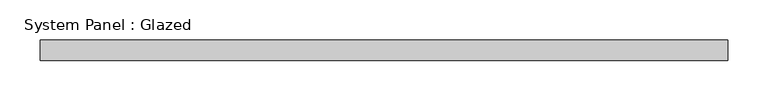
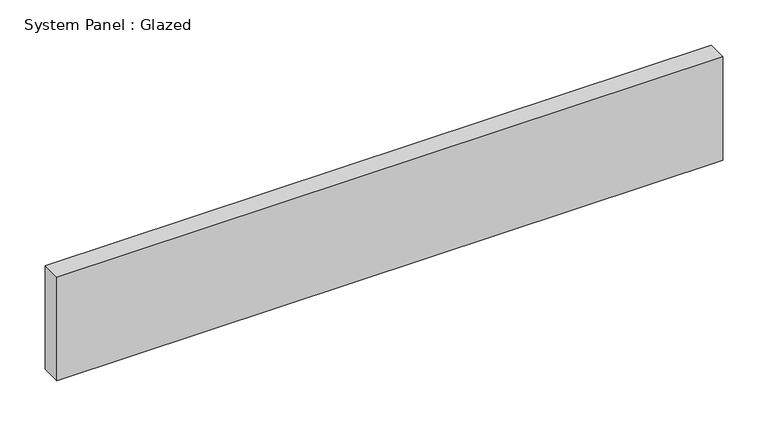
"""IFC4 building model written with IfcOpenShell, lengths in millimetres: plate geometry, System Panel : Glazed."""

import ifcopenshell
import ifcopenshell.guid

model = None  # the IFC model being written
_history = None  # IfcOwnerHistory: only IFC2X3 demands one
_inside = {}  # id of a spatial element -> (the spatial element, [elements in it])
_under = {}  # id of a project, library or spatial element -> (it, [spatial elements below it])
_declared = {}  # id of a project -> (the project, [libraries it declares])
_typed = {}  # id of a type object -> (the type object, [elements of that type])
_made_of = {}  # id of a material, layer set ... -> (it, [elements and type objects made of it])


def new_model(schema):
    """Start an empty IFC model of exactly this schema.

    Asked for "IFC4X3", IfcOpenShell would pick the latest addendum, in which some entities
    have other attributes; the version numbers below select the first issue.
    IFC2X3 requires an IfcOwnerHistory on every rooted entity: one is made here for all.
    """
    global model, _history
    if schema == "IFC4X3":
        model = ifcopenshell.file(schema_version=(4, 3, 0, 0))
    else:
        model = ifcopenshell.file(schema=schema)
    _inside.clear()
    _under.clear()
    _declared.clear()
    _typed.clear()
    _made_of.clear()
    _history = None
    if model.schema == "IFC2X3":
        org = make("IfcOrganization", Name="unknown")
        user = make(
            "IfcPersonAndOrganization",
            ThePerson=make("IfcPerson", FamilyName="unknown"),
            TheOrganization=org,
        )
        app = make(
            "IfcApplication",
            ApplicationDeveloper=org,
            Version="unknown",
            ApplicationFullName="unknown",
            ApplicationIdentifier="unknown",
        )
        _history = make(
            "IfcOwnerHistory",
            OwningUser=user,
            OwningApplication=app,
            ChangeAction="ADDED",
            CreationDate=0,
        )
    return model


def make(cls, **values):
    """One entity of the class cls with the attributes given. An attribute that is None is left unset."""
    return model.create_entity(
        cls, **{name: value for name, value in values.items() if value is not None}
    )


def rooted(cls, **values):
    """An entity with a GlobalId (a new one), such as an element, a storey or a relation."""
    return make(cls, GlobalId=ifcopenshell.guid.new(), OwnerHistory=_history, **values)


def si_unit(unit_type, name, prefix=None):
    """IfcSIUnit, for example si_unit("LENGTHUNIT", "METRE", prefix="MILLI")."""
    return make("IfcSIUnit", UnitType=unit_type, Prefix=prefix, Name=name)


def assignment(units):
    """IfcUnitAssignment: the units of a project."""
    return None if units is None else make("IfcUnitAssignment", Units=units)


def point(xyz):
    """IfcCartesianPoint."""
    return None if xyz is None else make("IfcCartesianPoint", Coordinates=xyz)


def direction(xyz):
    """IfcDirection."""
    return None if xyz is None else make("IfcDirection", DirectionRatios=xyz)


def frame(location, z_axis=None, x_axis=None):
    """IfcAxis2Placement3D, a coordinate frame: its origin and axes. An axis left out is left unset."""
    return make(
        "IfcAxis2Placement3D",
        Location=point(location),
        Axis=direction(z_axis),
        RefDirection=direction(x_axis),
    )


def origin():
    """The frame at (0, 0, 0) with its axes left unset."""
    return frame((0.0, 0.0, 0.0))


def origin_with_axes():
    """The frame at (0, 0, 0) with the z axis (0, 0, 1) and the x axis (1, 0, 0) written out."""
    return frame((0.0, 0.0, 0.0), z_axis=(0.0, 0.0, 1.0), x_axis=(1.0, 0.0, 0.0))


def place(relative_to, where):
    """IfcLocalPlacement: puts the frame where relative to a parent placement (None: the world)."""
    return make(
        "IfcLocalPlacement", PlacementRelTo=relative_to, RelativePlacement=where
    )


def context(
    kind, dimensions, precision=None, world=None, true_north=None, identifier=None
):
    """IfcGeometricRepresentationContext, for example the 3D "Model" context."""
    return make(
        "IfcGeometricRepresentationContext",
        ContextIdentifier=identifier,
        ContextType=kind,
        CoordinateSpaceDimension=dimensions,
        Precision=precision,
        WorldCoordinateSystem=world,
        TrueNorth=true_north,
    )


def project(units=None, contexts=None):
    """IfcProject with its units and contexts."""
    return rooted(
        "IfcProject",
        Name="project",
        RepresentationContexts=contexts,
        UnitsInContext=assignment(units),
    )


def spatial(cls, under=None, at=None, **own):
    """A site, building, storey or space (cls), placed at a placement, below another one or the project."""
    s = rooted(cls, ObjectPlacement=at, **own)
    if under is not None:
        _under.setdefault(under.id(), (under, []))[1].append(s)
    return s


def polyline(points):
    """IfcPolyline through the points."""
    return make("IfcPolyline", Points=[point(p) for p in points])


def outline(outer, holes=None, kind="AREA"):
    """IfcArbitraryClosedProfileDef: a profile drawn as a closed curve; with holes, ...WithVoids."""
    if holes is None:
        return make("IfcArbitraryClosedProfileDef", ProfileType=kind, OuterCurve=outer)
    return make(
        "IfcArbitraryProfileDefWithVoids",
        ProfileType=kind,
        OuterCurve=outer,
        InnerCurves=holes,
    )


def extrude(swept, where, along, depth):
    """IfcExtrudedAreaSolid: the profile swept, set in the frame where, extruded along a direction by depth."""
    return make(
        "IfcExtrudedAreaSolid",
        SweptArea=swept,
        Position=where,
        ExtrudedDirection=direction(along),
        Depth=depth,
    )


def shape(context_of_items, identifier, shape_type, items):
    """IfcShapeRepresentation: the items that make up one representation, for example the "Body"."""
    return make(
        "IfcShapeRepresentation",
        ContextOfItems=context_of_items,
        RepresentationIdentifier=identifier,
        RepresentationType=shape_type,
        Items=items,
    )


def source(mapping_origin, context_of_items, identifier, shape_type, items):
    """IfcRepresentationMap: a shape defined once, which mapped items show again and again."""
    return make(
        "IfcRepresentationMap",
        MappingOrigin=mapping_origin,
        MappedRepresentation=shape(context_of_items, identifier, shape_type, items),
    )


def transform(
    local_origin,
    x_axis=None,
    y_axis=None,
    z_axis=None,
    scale=None,
    scale2=None,
    scale3=None,
    uniform=True,
):
    """IfcCartesianTransformationOperator3D, or its non-uniform kind. x_axis, y_axis, z_axis: its Axis1, 2, 3."""
    if uniform:
        return make(
            "IfcCartesianTransformationOperator3D",
            Axis1=direction(x_axis),
            Axis2=direction(y_axis),
            LocalOrigin=point(local_origin),
            Scale=scale,
            Axis3=direction(z_axis),
        )
    return make(
        "IfcCartesianTransformationOperator3DnonUniform",
        Axis1=direction(x_axis),
        Axis2=direction(y_axis),
        LocalOrigin=point(local_origin),
        Scale=scale,
        Axis3=direction(z_axis),
        Scale2=scale2,
        Scale3=scale3,
    )


def mapped(mapping_source, mapping_target):
    """IfcMappedItem: shows the shape of a source again, moved by a transform."""
    return make(
        "IfcMappedItem", MappingSource=mapping_source, MappingTarget=mapping_target
    )


def made_of(thing, what):
    """Note that an element or type object is made of a material, layer set ...; save() writes the relation."""
    if what is not None:
        _made_of.setdefault(what.id(), (what, []))[1].append(thing)
    return thing


def element(
    cls,
    number,
    at=None,
    inside=None,
    cuts=None,
    type_object=None,
    material=None,
    context=None,
    identifier="Body",
    shape_type=None,
    held_by="IfcProductDefinitionShape",
    body=None,
    shapes=None,
    **own,
):
    """One element of the class cls, such as IfcWall. Its Tag is "e" and its number.

    at: its placement. inside: the storey or other place that contains it. cuts: it is an
    opening in that element (IfcRelVoidsElement). A single representation is given by context,
    identifier, shape_type and body (its items); several are given by shapes. held_by: the class
    of the entity that holds the representations. save() writes the other relations.
    """
    e = rooted(cls, Tag="e%d" % number, ObjectPlacement=at, **own)
    if body is not None:
        shapes = [shape(context, identifier, shape_type, body)]
    if shapes is not None:
        e.Representation = make(held_by, Representations=shapes)
    if inside is not None:
        _inside.setdefault(inside.id(), (inside, []))[1].append(e)
    if cuts is not None:
        rooted(
            "IfcRelVoidsElement", RelatingBuildingElement=cuts, RelatedOpeningElement=e
        )
    if type_object is not None:
        _typed.setdefault(type_object.id(), (type_object, []))[1].append(e)
    return made_of(e, material)


def aggregate(whole, parts):
    """IfcRelAggregates: a whole, such as a stair, and the parts it consists of."""
    return rooted("IfcRelAggregates", RelatingObject=whole, RelatedObjects=parts)


def save(model, path):
    """Write the relations noted so far, then the file.

    IfcRelAggregates (storeys below a building ...), IfcRelContainedInSpatialStructure (elements
    in a storey), IfcRelDefinesByType, IfcRelAssociatesMaterial and IfcRelDeclares: one each for
    every whole, place, type object, material and project.
    """
    for whole, parts in _under.values():
        aggregate(whole, parts)
    for where, things in _inside.values():
        rooted(
            "IfcRelContainedInSpatialStructure",
            RelatedElements=things,
            RelatingStructure=where,
        )
    for kind, things in _typed.values():
        rooted("IfcRelDefinesByType", RelatedObjects=things, RelatingType=kind)
    for what, things in _made_of.values():
        rooted("IfcRelAssociatesMaterial", RelatedObjects=things, RelatingMaterial=what)
    for by, libraries in _declared.values():
        rooted("IfcRelDeclares", RelatingContext=by, RelatedDefinitions=libraries)
    model.write(path)


def system_panel_glazed_d5ca8191(model_context):
    return source(origin(), model_context, "Body", "SweptSolid", [
        extrude(outline(polyline([(425.45, 19.05), (-425.45, 19.05), (-425.45, 44.45), (425.45, 44.45), (425.45, 19.05)])), origin_with_axes(), (0.0, 0.0, 1.0), 139.7),
    ])


if __name__ == "__main__":
    model = new_model("IFC4")
    model_context = context("Model", 3, world=origin())
    ifc_project = project(units=[si_unit("LENGTHUNIT", "METRE", prefix="MILLI")], contexts=[model_context])
    site = spatial("IfcSite", under=ifc_project)
    building = spatial("IfcBuilding", under=site)
    placement = place(None, origin())
    system_panel_glazed_shape = system_panel_glazed_d5ca8191(model_context)
    element("IfcPlate", 1, ObjectType="System Panel : Glazed", at=placement, inside=building, context=model_context, shape_type="MappedRepresentation", body=[
        mapped(system_panel_glazed_shape, transform((0.0, 0.0, 0.0), x_axis=(1.0, 0.0, 0.0), y_axis=(0.0, 1.0, 0.0), z_axis=(0.0, 0.0, 1.0))),
    ])
    save(model, "model.ifc")
